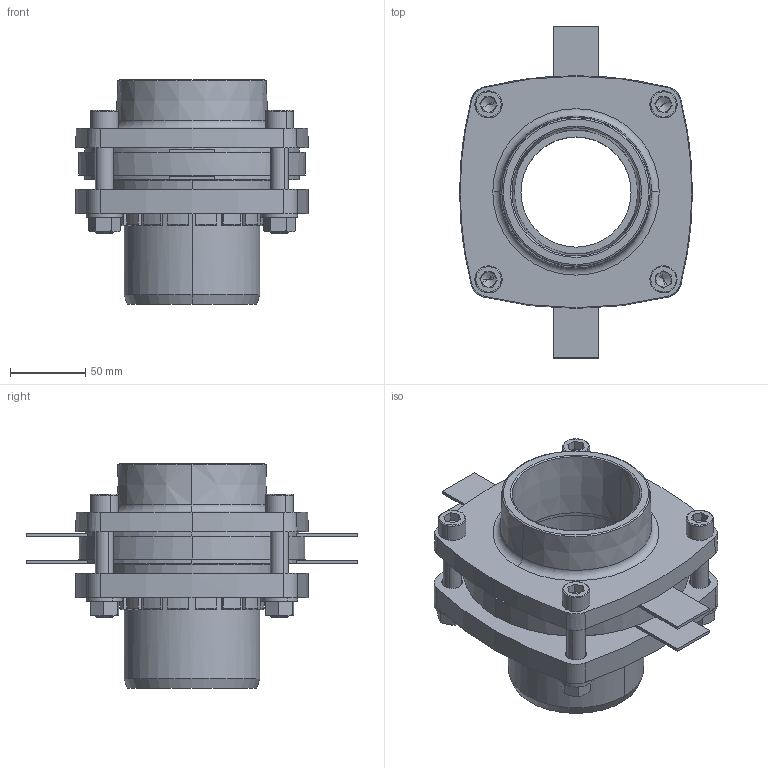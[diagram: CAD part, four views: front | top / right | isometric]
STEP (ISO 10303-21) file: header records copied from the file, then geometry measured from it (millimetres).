
FILE_DESCRIPTION (( 'STEP AP203' ), '1' );
FILE_NAME ('KP_C13-90F.step', '2011-08-08T12:02:48', ( '' ), ( '' ), 'SwSTEP 2.0', 'SolidWorks 2011', '' );
FILE_SCHEMA (( 'CONFIG_CONTROL_DESIGN' ));
Length unit declared in the file: millimetre
Products named in the file (1): KP_C13-90F
Bounding box: 154.3 x 220 x 148.5 mm (x, y, z)
Volume: 1006368.3 mm3; surface area: 206403.1 mm2
Topology: 1 solids, 2 shells, 506 faces, 1328 edges, 824 vertices
Faces by surface type: plane 234, cylinder 122, cone 110, torus 40
Entity records: 15903 total; most frequent: CARTESIAN_POINT 2923, DIRECTION 2890, ORIENTED_EDGE 2640, EDGE_CURVE 1320, AXIS2_PLACEMENT_3D 1111, VERTEX_POINT 824, VECTOR 668, LINE 668
